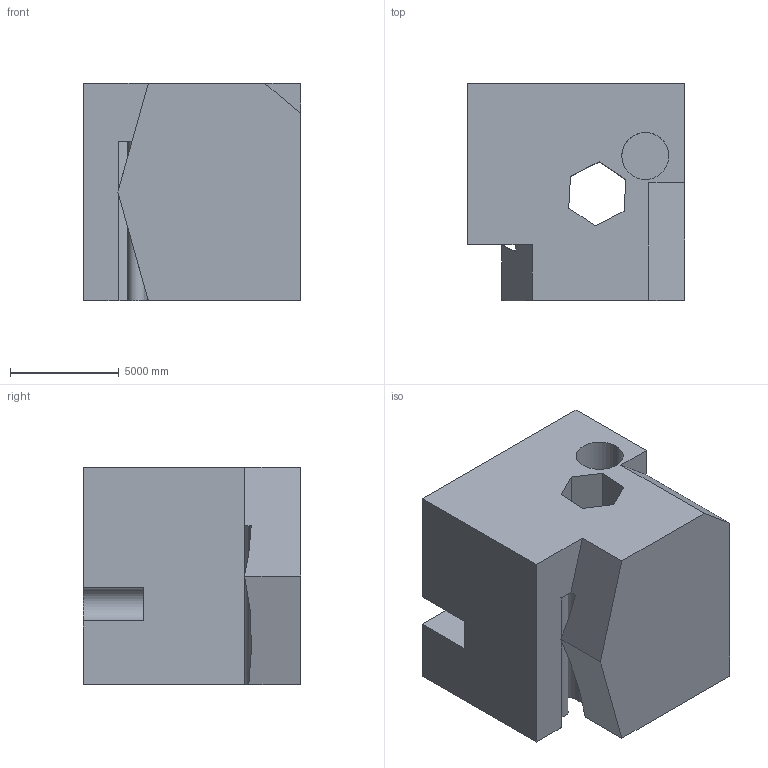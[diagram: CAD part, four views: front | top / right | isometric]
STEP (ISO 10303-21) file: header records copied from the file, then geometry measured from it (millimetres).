
FILE_DESCRIPTION (( 'STEP AP203' ), '1' );
FILE_NAME ('1554.STEP', '2022-08-18T15:45:51', ( 'user' ), ( '' ), 'SwSTEP 2.0', 'SolidWorks 2021', '' );
FILE_SCHEMA (( 'CONFIG_CONTROL_DESIGN' ));
Length unit declared in the file: centimetre
Products named in the file (1): 1554
Bounding box: 10000 x 10000 x 10000 mm (x, y, z)
Volume: 818772692469.1 mm3; surface area: 769429716.9 mm2
Topology: 1 solids, 1 shells, 30 faces, 84 edges, 56 vertices
Faces by surface type: plane 23, cylinder 7
Entity records: 1049 total; most frequent: CARTESIAN_POINT 177, ORIENTED_EDGE 168, DIRECTION 160, EDGE_CURVE 84, VECTOR 66, LINE 66, VERTEX_POINT 56, AXIS2_PLACEMENT_3D 47
